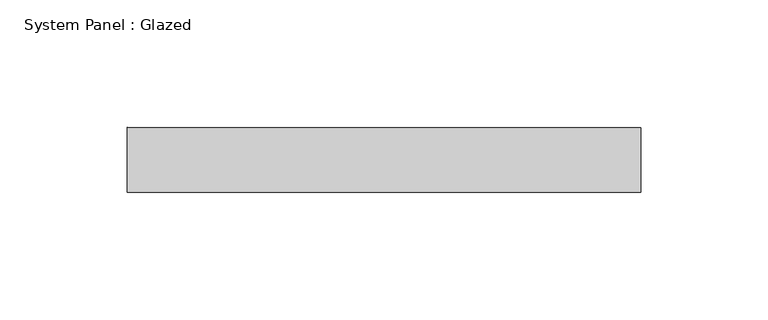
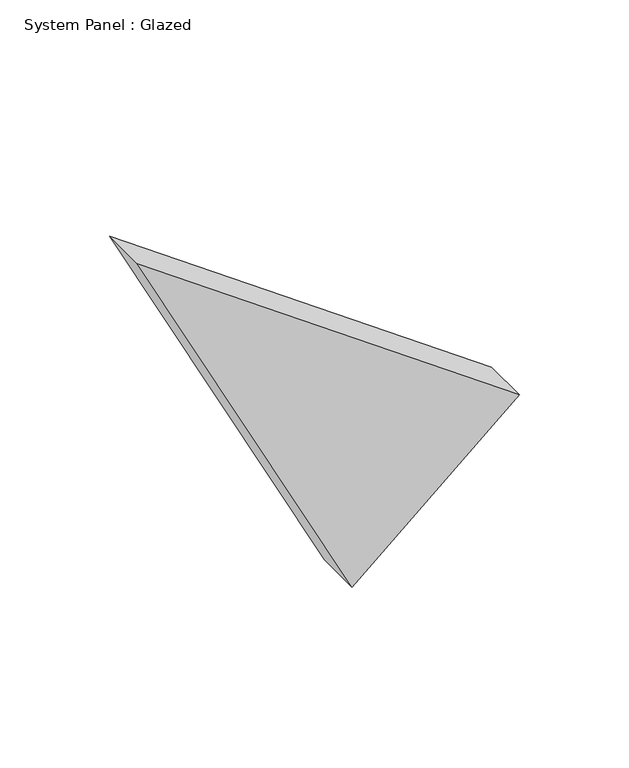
"""IFC4 building model written with IfcOpenShell, lengths in millimetres: plate geometry, System Panel : Glazed."""

from ifc_helpers import new_model, si_unit, frame, origin, place, context, project, spatial, polyline, outline, extrude, source, transform, mapped, element, save


def system_panel_glazed_91be5447(model_context):
    return source(origin(), model_context, "Body", "SweptSolid", [
        extrude(outline(polyline([(0.0, 12.5753984), (76.1965989, 100.5975988), (219.6771406, -100.5975988), (0.0, 12.5753984)])), frame((0.0, -44.45, 0.0), z_axis=(0.0, 1.0, 0.0), x_axis=(0.0, 0.0, 1.0)), (0.0, 0.0, 1.0), 25.4),
    ])


if __name__ == "__main__":
    model = new_model("IFC4")
    model_context = context("Model", 3, world=origin())
    ifc_project = project(units=[si_unit("LENGTHUNIT", "METRE", prefix="MILLI")], contexts=[model_context])
    site = spatial("IfcSite", under=ifc_project)
    building = spatial("IfcBuilding", under=site)
    placement = place(None, origin())
    system_panel_glazed_shape = system_panel_glazed_91be5447(model_context)
    element("IfcPlate", 1, ObjectType="System Panel : Glazed", at=placement, inside=building, context=model_context, shape_type="MappedRepresentation", body=[
        mapped(system_panel_glazed_shape, transform((0.0, 0.0, 0.0), x_axis=(1.0, 0.0, 0.0), y_axis=(0.0, 1.0, 0.0), z_axis=(0.0, 0.0, 1.0))),
    ])
    save(model, "model.ifc")
